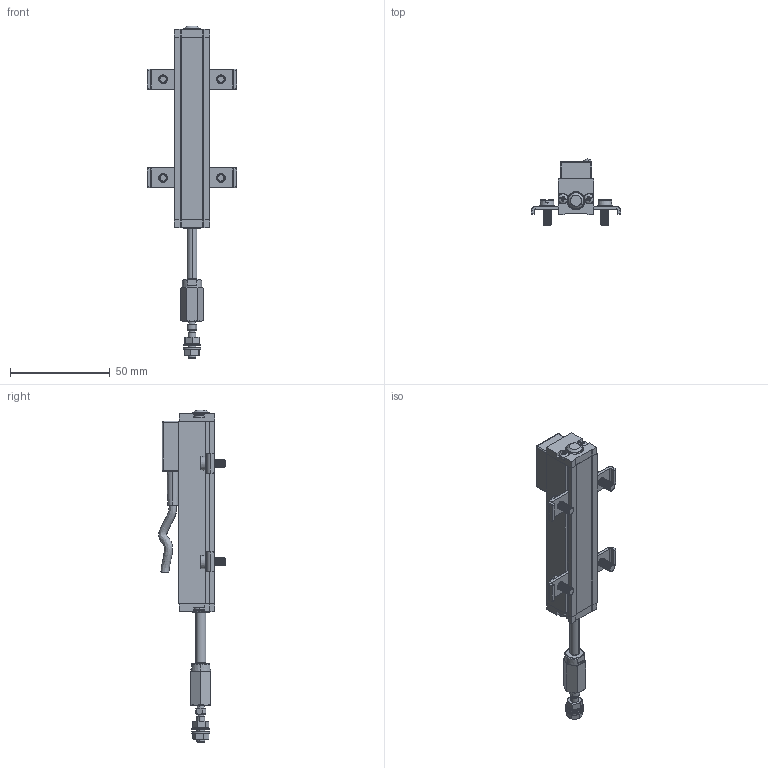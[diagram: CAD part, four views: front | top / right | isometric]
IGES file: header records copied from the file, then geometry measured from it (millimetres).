
Start section: SolidWorks IGES file using analytic representation for surfaces
Global section: file name: K:\Disegni Catalogo\Posizione\PA1\PA1-C-050\3D\Solidworks 2012\PA1-F-050\PA-1-F-050.IGS; native system: SolidWorks 2012; preprocessor: SolidWorks 2012; author: Loda-w1; date: 130219.123338; units: millimetre
Bounding box: 45 x 33.33 x 166.53 mm (x, y, z)
Surface area: 21869.9 mm2 (no closed solid volume)
Topology: 0 solids, 0 shells, 1621 faces, 12919 edges, 12891 vertices
Faces by surface type: revolution 1219, bspline 402
